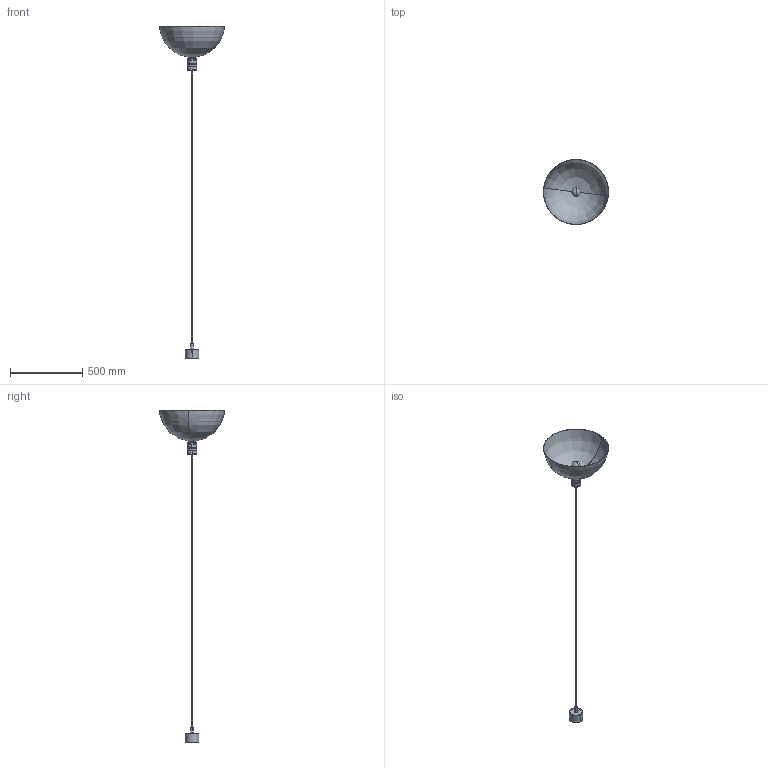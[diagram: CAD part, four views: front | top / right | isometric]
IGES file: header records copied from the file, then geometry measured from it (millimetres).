
Start section: SolidWorks IGES file using analytic representation for surfaces
Global section: file name: C:\Users\tungari.NEMOLIGHTING\Desktop\3D\PENDANT\3D_AM4C - Copia\NO_DEFEATURE_AM4Z\3D_AM4Z.IGS; native system: SolidWorks 2016; preprocessor: SolidWorks 2016; author: tungari; date: 180221.172015; units: millimetre
Bounding box: 449.46 x 449.46 x 2290.25 mm (x, y, z)
Surface area: 771085.5 mm2 (no closed solid volume)
Topology: 0 solids, 0 shells, 165 faces, 4794 edges, 4792 vertices
Faces by surface type: revolution 119, bspline 46
